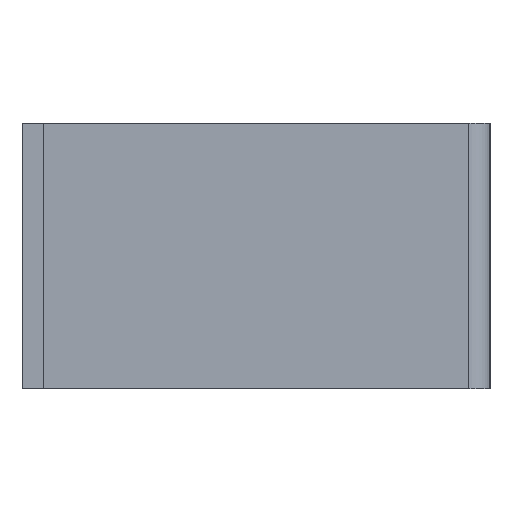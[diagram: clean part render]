
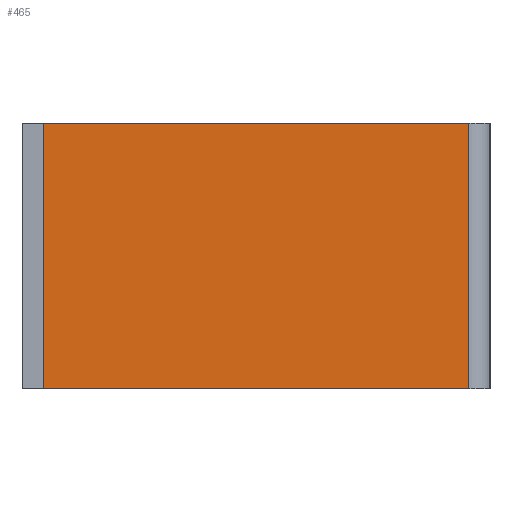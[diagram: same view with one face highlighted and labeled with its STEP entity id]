
A CAD part, left-side view. The second image highlights one B-rep face of the part: STEP entity #465.
In plain terms, the highlighted planar face has unit normal (-1, 0, 0).
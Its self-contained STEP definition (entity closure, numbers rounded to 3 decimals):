
#301=CARTESIAN_POINT('',(-270.,2.,25.));
#302=VERTEX_POINT('',#301);
#310=CARTESIAN_POINT('',(-270.,2.,0.));
#311=VERTEX_POINT('',#310);
#312=CARTESIAN_POINT('',(-270.,2.,250.));
#313=DIRECTION('',(0.,0.,-1.));
#314=VECTOR('',#313,250.);
#315=LINE('',#312,#314);
#316=EDGE_CURVE('',#302,#311,#315,.T.);
#335=CARTESIAN_POINT('',(-270.,42.,0.));
#336=VERTEX_POINT('',#335);
#337=CARTESIAN_POINT('',(-270.,42.,0.));
#338=DIRECTION('',(0.,-1.,0.));
#339=VECTOR('',#338,400.);
#340=LINE('',#337,#339);
#341=EDGE_CURVE('',#336,#311,#340,.T.);
#442=CARTESIAN_POINT('',(-270.,21.,0.));
#443=DIRECTION('',(-1.,0.,0.));
#444=DIRECTION('',(0.,-1.,0.));
#445=AXIS2_PLACEMENT_3D('',#442,#443,#444);
#446=PLANE('',#445);
#447=ORIENTED_EDGE('',*,*,#316,.F.);
#448=CARTESIAN_POINT('',(-270.,42.,25.));
#449=VERTEX_POINT('',#448);
#450=CARTESIAN_POINT('',(-270.,-358.,25.));
#451=DIRECTION('',(0.,1.,0.));
#452=VECTOR('',#451,400.);
#453=LINE('',#450,#452);
#454=EDGE_CURVE('',#302,#449,#453,.T.);
#455=ORIENTED_EDGE('',*,*,#454,.T.);
#456=CARTESIAN_POINT('',(-270.,42.,0.));
#457=DIRECTION('',(0.,0.,1.));
#458=VECTOR('',#457,250.);
#459=LINE('',#456,#458);
#460=EDGE_CURVE('',#336,#449,#459,.T.);
#461=ORIENTED_EDGE('',*,*,#460,.F.);
#462=ORIENTED_EDGE('',*,*,#341,.T.);
#463=EDGE_LOOP('',(#447,#455,#461,#462));
#464=FACE_BOUND('',#463,.T.);
#465=ADVANCED_FACE('',(#464),#446,.T.);
